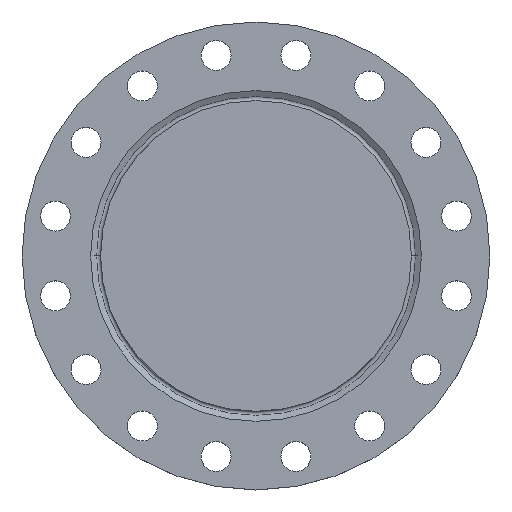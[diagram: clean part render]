
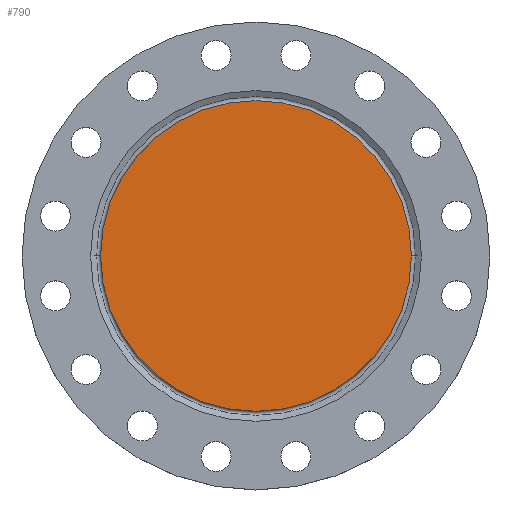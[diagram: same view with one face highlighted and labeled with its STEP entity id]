
A CAD part, top view. The second image highlights one B-rep face of the part: STEP entity #790.
In plain terms, the highlighted planar face has unit normal (0, 0, 1).
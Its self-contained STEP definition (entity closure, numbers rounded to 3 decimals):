
#148 = DIRECTION ( 'NONE',  ( -1., 0., 0. ) ) ;
#149 = DIRECTION ( 'NONE',  ( 0., 0., -1. ) ) ;
#150 = CARTESIAN_POINT ( 'NONE',  ( 0., 0., 0. ) ) ;
#226 = AXIS2_PLACEMENT_3D ( 'NONE', #1484, #1482, #1477 ) ;
#254 = CARTESIAN_POINT ( 'NONE',  ( -171., 0., 0. ) ) ;
#297 = DIRECTION ( 'NONE',  ( 1., 0., 0. ) ) ;
#298 = DIRECTION ( 'NONE',  ( 0., 0., 1. ) ) ;
#300 = CARTESIAN_POINT ( 'NONE',  ( 0., 0., 0. ) ) ;
#301 = PLANE ( 'NONE',  #380 ) ;
#302 = FACE_OUTER_BOUND ( 'NONE', #1169, .T. ) ;
#366 = CARTESIAN_POINT ( 'NONE',  ( 171., 0., 0. ) ) ;
#380 = AXIS2_PLACEMENT_3D ( 'NONE', #300, #298, #297 ) ;
#655 = CIRCLE ( 'NONE', #661, 171. ) ;
#661 = AXIS2_PLACEMENT_3D ( 'NONE', #150, #149, #148 ) ;
#692 = VERTEX_POINT ( 'NONE', #366 ) ;
#790 = ADVANCED_FACE ( 'NONE', ( #302 ), #301, .T. ) ;
#870 = ORIENTED_EDGE ( 'NONE', *, *, #1043, .F. ) ;
#871 = ORIENTED_EDGE ( 'NONE', *, *, #1194, .F. ) ;
#921 = VERTEX_POINT ( 'NONE', #254 ) ;
#1043 = EDGE_CURVE ( 'NONE', #921, #692, #655, .T. ) ;
#1169 = EDGE_LOOP ( 'NONE', ( #870, #871 ) ) ;
#1194 = EDGE_CURVE ( 'NONE', #692, #921, #1420, .T. ) ;
#1420 = CIRCLE ( 'NONE', #226, 171. ) ;
#1477 = DIRECTION ( 'NONE',  ( -1., 0., 0. ) ) ;
#1482 = DIRECTION ( 'NONE',  ( 0., 0., -1. ) ) ;
#1484 = CARTESIAN_POINT ( 'NONE',  ( 0., 0., 0. ) ) ;
